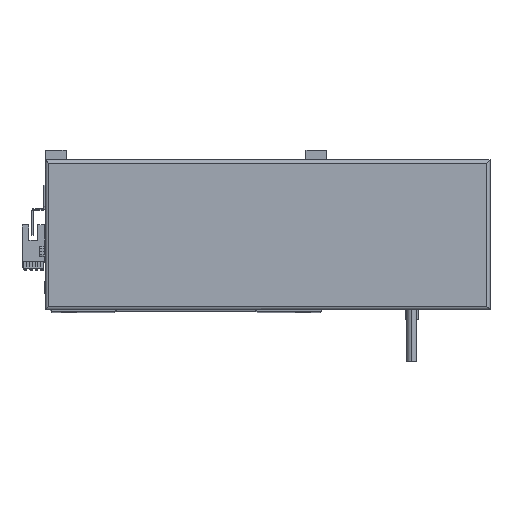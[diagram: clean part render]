
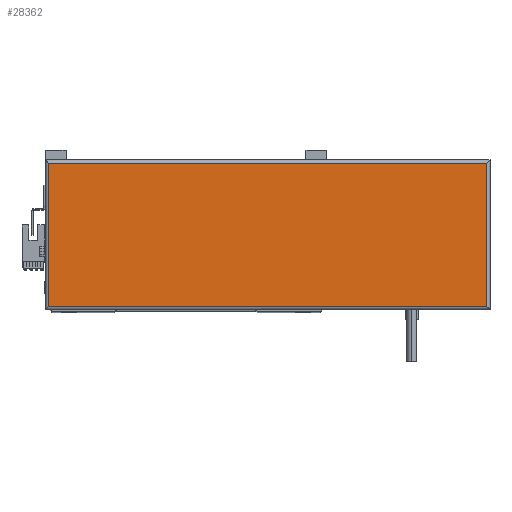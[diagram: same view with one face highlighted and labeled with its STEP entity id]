
A CAD part, top view. The second image highlights one B-rep face of the part: STEP entity #28362.
In plain terms, the highlighted planar face has unit normal (0, 0, 1).
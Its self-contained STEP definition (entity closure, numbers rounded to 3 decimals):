
#899 = LINE ( 'NONE', #29260, #36449 ) ;
#3426 = DIRECTION ( 'NONE',  ( 0., -1., 0. ) ) ;
#4095 = LINE ( 'NONE', #32357, #9156 ) ;
#4499 = EDGE_CURVE ( 'NONE', #14693, #13329, #4095, .T. ) ;
#4851 = ORIENTED_EDGE ( 'NONE', *, *, #40819, .T. ) ;
#5076 = VECTOR ( 'NONE', #12380, 1000. ) ;
#6181 = DIRECTION ( 'NONE',  ( 1., 0., 0. ) ) ;
#6537 = AXIS2_PLACEMENT_3D ( 'NONE', #33369, #12250, #8450 ) ;
#7081 = CARTESIAN_POINT ( 'NONE',  ( 2., 88., 44.8 ) ) ;
#8211 = ORIENTED_EDGE ( 'NONE', *, *, #24418, .T. ) ;
#8450 = DIRECTION ( 'NONE',  ( 1., 0., 0. ) ) ;
#9156 = VECTOR ( 'NONE', #6181, 1000. ) ;
#10512 = EDGE_LOOP ( 'NONE', ( #44734, #8211, #4851, #26517 ) ) ;
#12250 = DIRECTION ( 'NONE',  ( 0., 0., 1. ) ) ;
#12380 = DIRECTION ( 'NONE',  ( -1., 0., 0. ) ) ;
#13329 = VERTEX_POINT ( 'NONE', #14822 ) ;
#14693 = VERTEX_POINT ( 'NONE', #30378 ) ;
#14822 = CARTESIAN_POINT ( 'NONE',  ( 265., 2., 44.8 ) ) ;
#15581 = FACE_OUTER_BOUND ( 'NONE', #10512, .T. ) ;
#16212 = EDGE_CURVE ( 'NONE', #13329, #23407, #899, .T. ) ;
#17917 = DIRECTION ( 'NONE',  ( 0., 1., 0. ) ) ;
#19025 = CARTESIAN_POINT ( 'NONE',  ( 0., 88., 44.8 ) ) ;
#22696 = LINE ( 'NONE', #43019, #29441 ) ;
#23407 = VERTEX_POINT ( 'NONE', #34062 ) ;
#24418 = EDGE_CURVE ( 'NONE', #23407, #46502, #42339, .T. ) ;
#26517 = ORIENTED_EDGE ( 'NONE', *, *, #4499, .T. ) ;
#28362 = ADVANCED_FACE ( 'NONE', ( #15581 ), #43506, .T. ) ;
#29260 = CARTESIAN_POINT ( 'NONE',  ( 265., 90., 44.8 ) ) ;
#29441 = VECTOR ( 'NONE', #3426, 1000. ) ;
#30378 = CARTESIAN_POINT ( 'NONE',  ( 2., 2., 44.8 ) ) ;
#32357 = CARTESIAN_POINT ( 'NONE',  ( 267., 2., 44.8 ) ) ;
#33369 = CARTESIAN_POINT ( 'NONE',  ( 133.5, 45., 44.8 ) ) ;
#34062 = CARTESIAN_POINT ( 'NONE',  ( 265., 88., 44.8 ) ) ;
#36449 = VECTOR ( 'NONE', #17917, 1000. ) ;
#40819 = EDGE_CURVE ( 'NONE', #46502, #14693, #22696, .T. ) ;
#42339 = LINE ( 'NONE', #19025, #5076 ) ;
#43019 = CARTESIAN_POINT ( 'NONE',  ( 2., 0., 44.8 ) ) ;
#43506 = PLANE ( 'NONE',  #6537 ) ;
#44734 = ORIENTED_EDGE ( 'NONE', *, *, #16212, .T. ) ;
#46502 = VERTEX_POINT ( 'NONE', #7081 ) ;
